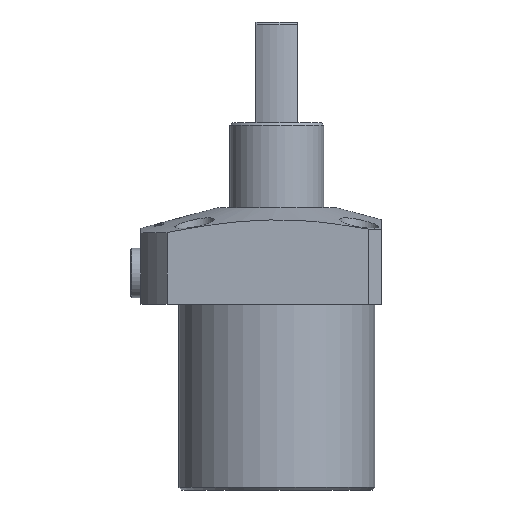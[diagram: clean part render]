
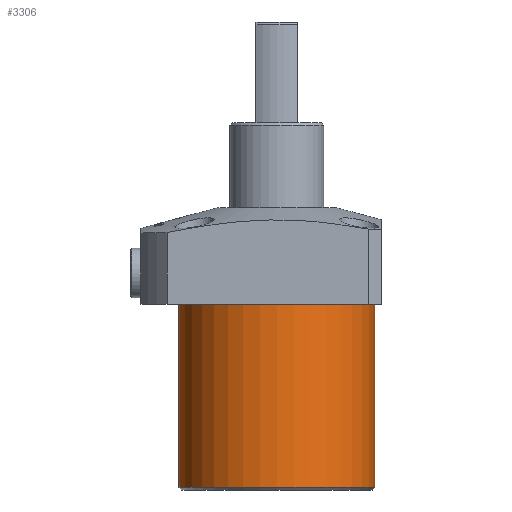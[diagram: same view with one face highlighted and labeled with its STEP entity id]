
A CAD part, front view. The second image highlights one B-rep face of the part: STEP entity #3306.
In plain terms, the highlighted cylindrical face has radius 37.5 mm (diameter 75 mm), a partial arc.
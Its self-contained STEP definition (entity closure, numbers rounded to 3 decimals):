
#685 = CARTESIAN_POINT ( 'NONE',  ( -37.5, 0., 0. ) ) ;
#1141 = DIRECTION ( 'NONE',  ( 0., 0., 1. ) ) ;
#1251 = EDGE_CURVE ( 'NONE', #13444, #10919, #5319, .T. ) ;
#1862 = AXIS2_PLACEMENT_3D ( 'NONE', #7616, #13321, #4138 ) ;
#1930 = VECTOR ( 'NONE', #1141, 1000. ) ;
#1997 = EDGE_LOOP ( 'NONE', ( #10923, #14684, #10330, #11835 ) ) ;
#2377 = EDGE_CURVE ( 'NONE', #13444, #8602, #11062, .T. ) ;
#3120 = DIRECTION ( 'NONE',  ( 0., 0., 1. ) ) ;
#3306 = ADVANCED_FACE ( 'NONE', ( #5293 ), #11049, .T. ) ;
#3545 = DIRECTION ( 'NONE',  ( 0., 0., -1. ) ) ;
#3769 = AXIS2_PLACEMENT_3D ( 'NONE', #9965, #3120, #11138 ) ;
#4138 = DIRECTION ( 'NONE',  ( 1., 0., 0. ) ) ;
#4542 = CARTESIAN_POINT ( 'NONE',  ( -37.5, 0., -71. ) ) ;
#4704 = VERTEX_POINT ( 'NONE', #8639 ) ;
#5293 = FACE_OUTER_BOUND ( 'NONE', #1997, .T. ) ;
#5319 = CIRCLE ( 'NONE', #3769, 37.5 ) ;
#7616 = CARTESIAN_POINT ( 'NONE',  ( 0., 0., -71. ) ) ;
#7815 = CARTESIAN_POINT ( 'NONE',  ( 37.5, 0., -71. ) ) ;
#8497 = EDGE_CURVE ( 'NONE', #4704, #8602, #13224, .T. ) ;
#8602 = VERTEX_POINT ( 'NONE', #685 ) ;
#8639 = CARTESIAN_POINT ( 'NONE',  ( 37.5, 0., 0. ) ) ;
#8756 = CARTESIAN_POINT ( 'NONE',  ( 37.5, 0., -70. ) ) ;
#8957 = DIRECTION ( 'NONE',  ( 0., 0., 1. ) ) ;
#9389 = AXIS2_PLACEMENT_3D ( 'NONE', #10400, #3545, #11576 ) ;
#9605 = CARTESIAN_POINT ( 'NONE',  ( -37.5, 0., -70. ) ) ;
#9965 = CARTESIAN_POINT ( 'NONE',  ( 0., 0., -70. ) ) ;
#10107 = EDGE_CURVE ( 'NONE', #10919, #4704, #13748, .T. ) ;
#10330 = ORIENTED_EDGE ( 'NONE', *, *, #10107, .T. ) ;
#10400 = CARTESIAN_POINT ( 'NONE',  ( 0., 0., 0. ) ) ;
#10919 = VERTEX_POINT ( 'NONE', #8756 ) ;
#10923 = ORIENTED_EDGE ( 'NONE', *, *, #2377, .F. ) ;
#11049 = CYLINDRICAL_SURFACE ( 'NONE', #1862, 37.5 ) ;
#11062 = LINE ( 'NONE', #4542, #1930 ) ;
#11138 = DIRECTION ( 'NONE',  ( -1., 0., 0. ) ) ;
#11576 = DIRECTION ( 'NONE',  ( -1., 0., 0. ) ) ;
#11835 = ORIENTED_EDGE ( 'NONE', *, *, #8497, .T. ) ;
#13224 = CIRCLE ( 'NONE', #9389, 37.5 ) ;
#13321 = DIRECTION ( 'NONE',  ( 0., 0., 1. ) ) ;
#13378 = VECTOR ( 'NONE', #8957, 1000. ) ;
#13444 = VERTEX_POINT ( 'NONE', #9605 ) ;
#13748 = LINE ( 'NONE', #7815, #13378 ) ;
#14684 = ORIENTED_EDGE ( 'NONE', *, *, #1251, .T. ) ;
